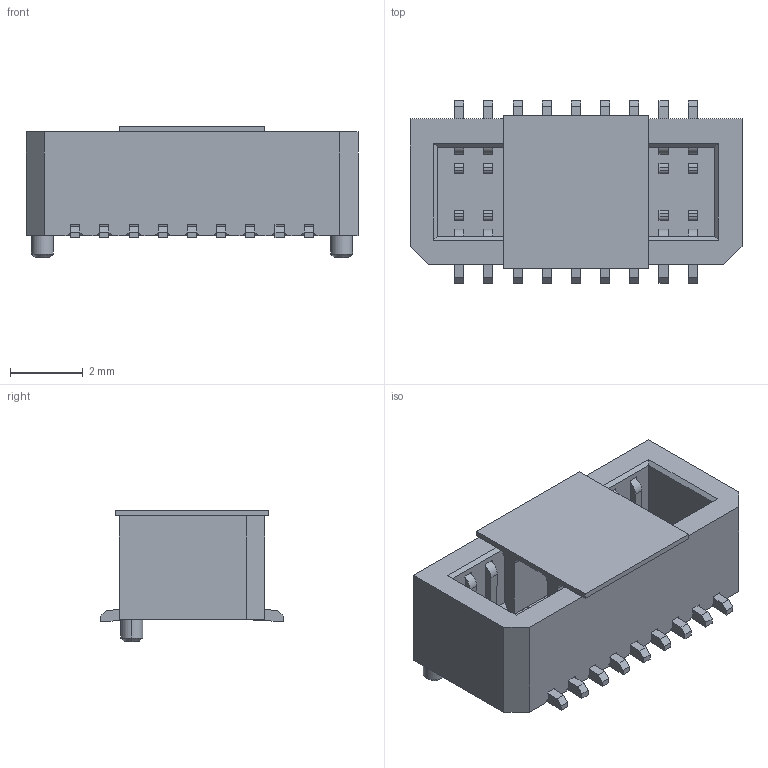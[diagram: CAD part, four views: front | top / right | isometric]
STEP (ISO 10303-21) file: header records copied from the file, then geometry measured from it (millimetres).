
FILE_DESCRIPTION(('CATIA V5 STEP Exchange'),'2;1');
FILE_NAME('F:\黄富鸿\板对板\PBB08B\母座\H2.90\带盖\HC-PBB08B-1-18-F-H2.9-XX-R-P-06 (BTB0.8 单槽 B型母座 立贴 带柱 编带+盖)-HCTL.stp','2026-01-26T06:14:54+00:00',('none'),('none'),'CATIA Version 5 Release 20 GA (IN-10)','CATIA V5 STEP AP203','none');
FILE_SCHEMA(('CONFIG_CONTROL_DESIGN'));
Length unit declared in the file: millimetre
Products named in the file (1): Part1
Bounding box: 9.1 x 5 x 3.6 mm (x, y, z)
Volume: 76.9 mm3; surface area: 410.8 mm2
Topology: 20 solids, 20 shells, 857 faces, 2560 edges, 1692 vertices
Faces by surface type: plane 521, cylinder 332, cone 4
Entity records: 26911 total; most frequent: ORIENTED_EDGE 5120, CARTESIAN_POINT 4839, DIRECTION 3720, EDGE_CURVE 2560, VECTOR 1888, LINE 1888, VERTEX_POINT 1692, AXIS2_PLACEMENT_3D 1251
